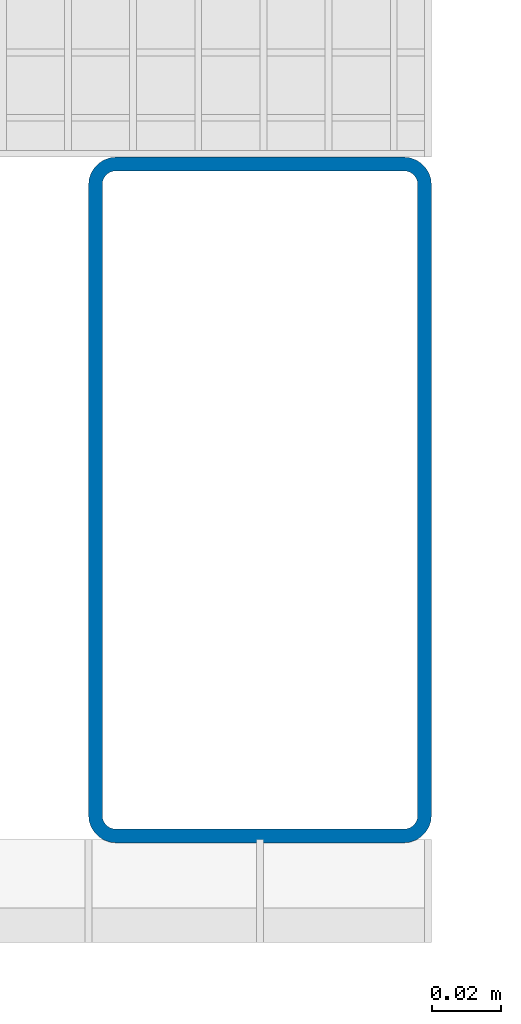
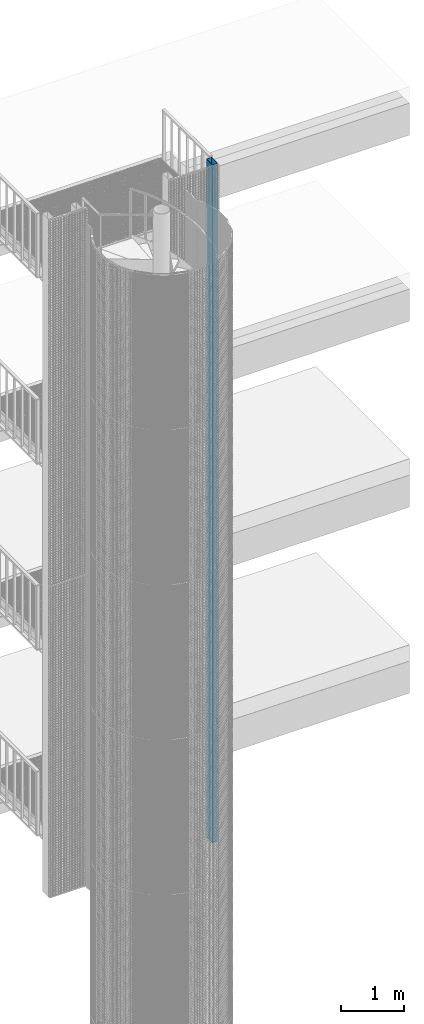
# One storey, part 34 of 1183: 1 column, 1 element without a shape of its own.
"""IFC2X3 building model written with IfcOpenShell, lengths in millimetres."""

import ifcopenshell
import ifcopenshell.guid

model = None  # the IFC model being written
_history = None  # IfcOwnerHistory: only IFC2X3 demands one
_inside = {}  # id of a spatial element -> (the spatial element, [elements in it])
_under = {}  # id of a project, library or spatial element -> (it, [spatial elements below it])
_declared = {}  # id of a project -> (the project, [libraries it declares])
_typed = {}  # id of a type object -> (the type object, [elements of that type])
_made_of = {}  # id of a material, layer set ... -> (it, [elements and type objects made of it])


def new_model(schema):
    """Start an empty IFC model of exactly this schema.

    Asked for "IFC4X3", IfcOpenShell would pick the latest addendum, in which some entities
    have other attributes; the version numbers below select the first issue.
    IFC2X3 requires an IfcOwnerHistory on every rooted entity: one is made here for all.
    """
    global model, _history
    if schema == "IFC4X3":
        model = ifcopenshell.file(schema_version=(4, 3, 0, 0))
    else:
        model = ifcopenshell.file(schema=schema)
    _inside.clear()
    _under.clear()
    _declared.clear()
    _typed.clear()
    _made_of.clear()
    _history = None
    if model.schema == "IFC2X3":
        org = make("IfcOrganization", Name="unknown")
        user = make(
            "IfcPersonAndOrganization",
            ThePerson=make("IfcPerson", FamilyName="unknown"),
            TheOrganization=org,
        )
        app = make(
            "IfcApplication",
            ApplicationDeveloper=org,
            Version="unknown",
            ApplicationFullName="unknown",
            ApplicationIdentifier="unknown",
        )
        _history = make(
            "IfcOwnerHistory",
            OwningUser=user,
            OwningApplication=app,
            ChangeAction="ADDED",
            CreationDate=0,
        )
    return model


def make(cls, **values):
    """One entity of the class cls with the attributes given. An attribute that is None is left unset."""
    return model.create_entity(
        cls, **{name: value for name, value in values.items() if value is not None}
    )


def rooted(cls, **values):
    """An entity with a GlobalId (a new one), such as an element, a storey or a relation."""
    return make(cls, GlobalId=ifcopenshell.guid.new(), OwnerHistory=_history, **values)


def si_unit(unit_type, name, prefix=None):
    """IfcSIUnit, for example si_unit("LENGTHUNIT", "METRE", prefix="MILLI")."""
    return make("IfcSIUnit", UnitType=unit_type, Prefix=prefix, Name=name)


def assignment(units):
    """IfcUnitAssignment: the units of a project."""
    return None if units is None else make("IfcUnitAssignment", Units=units)


def point(xyz):
    """IfcCartesianPoint."""
    return None if xyz is None else make("IfcCartesianPoint", Coordinates=xyz)


def direction(xyz):
    """IfcDirection."""
    return None if xyz is None else make("IfcDirection", DirectionRatios=xyz)


def frame(location, z_axis=None, x_axis=None):
    """IfcAxis2Placement3D, a coordinate frame: its origin and axes. An axis left out is left unset."""
    return make(
        "IfcAxis2Placement3D",
        Location=point(location),
        Axis=direction(z_axis),
        RefDirection=direction(x_axis),
    )


def frame_2d(location, x_axis=None):
    """IfcAxis2Placement2D, a coordinate frame in the plane: its origin and x axis."""
    return make(
        "IfcAxis2Placement2D", Location=point(location), RefDirection=direction(x_axis)
    )


def origin_with_axes():
    """The frame at (0, 0, 0) with the z axis (0, 0, 1) and the x axis (1, 0, 0) written out."""
    return frame((0.0, 0.0, 0.0), z_axis=(0.0, 0.0, 1.0), x_axis=(1.0, 0.0, 0.0))


def origin_2d_with_axis():
    """The frame at (0, 0) in the plane with the x axis (1, 0) written out."""
    return frame_2d((0.0, 0.0), x_axis=(1.0, 0.0))


def place(relative_to, where):
    """IfcLocalPlacement: puts the frame where relative to a parent placement (None: the world)."""
    return make(
        "IfcLocalPlacement", PlacementRelTo=relative_to, RelativePlacement=where
    )


def context(
    kind, dimensions, precision=None, world=None, true_north=None, identifier=None
):
    """IfcGeometricRepresentationContext, for example the 3D "Model" context."""
    return make(
        "IfcGeometricRepresentationContext",
        ContextIdentifier=identifier,
        ContextType=kind,
        CoordinateSpaceDimension=dimensions,
        Precision=precision,
        WorldCoordinateSystem=world,
        TrueNorth=true_north,
    )


def subcontext(parent, identifier, kind, view, scale=None):
    """IfcGeometricRepresentationSubContext, for example "Body" below "Model"."""
    return make(
        "IfcGeometricRepresentationSubContext",
        ContextIdentifier=identifier,
        ContextType=kind,
        ParentContext=parent,
        TargetScale=scale,
        TargetView=view,
    )


def project(units=None, contexts=None):
    """IfcProject with its units and contexts."""
    return rooted(
        "IfcProject",
        Name="project",
        RepresentationContexts=contexts,
        UnitsInContext=assignment(units),
    )


def spatial(cls, under=None, at=None, **own):
    """A site, building, storey or space (cls), placed at a placement, below another one or the project."""
    s = rooted(cls, ObjectPlacement=at, **own)
    if under is not None:
        _under.setdefault(under.id(), (under, []))[1].append(s)
    return s


def profile(cls, at=None, kind="AREA", **sizes):
    """A parametric profile (cls). Its sizes go by their IFC names, for example OverallWidth=200.0."""
    return make(cls, ProfileType=kind, Position=at, **sizes)


def hollow_rectangle(**sizes):
    """IfcRectangleHollowProfileDef."""
    return profile("IfcRectangleHollowProfileDef", **sizes)


def extrude(swept, where, along, depth):
    """IfcExtrudedAreaSolid: the profile swept, set in the frame where, extruded along a direction by depth."""
    return make(
        "IfcExtrudedAreaSolid",
        SweptArea=swept,
        Position=where,
        ExtrudedDirection=direction(along),
        Depth=depth,
    )


def shape(context_of_items, identifier, shape_type, items):
    """IfcShapeRepresentation: the items that make up one representation, for example the "Body"."""
    return make(
        "IfcShapeRepresentation",
        ContextOfItems=context_of_items,
        RepresentationIdentifier=identifier,
        RepresentationType=shape_type,
        Items=items,
    )


def material(Name=None, Category=None):
    """IfcMaterial."""
    return make("IfcMaterial", Name=Name, Category=Category)


def made_of(thing, what):
    """Note that an element or type object is made of a material, layer set ...; save() writes the relation."""
    if what is not None:
        _made_of.setdefault(what.id(), (what, []))[1].append(thing)
    return thing


def type_object(cls, material=None, **own):
    """A type object (cls), such as IfcWallType, which elements share."""
    return made_of(rooted(cls, **own), material)


def element(
    cls,
    number,
    at=None,
    inside=None,
    cuts=None,
    type_object=None,
    material=None,
    context=None,
    identifier="Body",
    shape_type=None,
    held_by="IfcProductDefinitionShape",
    body=None,
    shapes=None,
    **own,
):
    """One element of the class cls, such as IfcWall. Its Tag is "e" and its number.

    at: its placement. inside: the storey or other place that contains it. cuts: it is an
    opening in that element (IfcRelVoidsElement). A single representation is given by context,
    identifier, shape_type and body (its items); several are given by shapes. held_by: the class
    of the entity that holds the representations. save() writes the other relations.
    """
    e = rooted(cls, Tag="e%d" % number, ObjectPlacement=at, **own)
    if body is not None:
        shapes = [shape(context, identifier, shape_type, body)]
    if shapes is not None:
        e.Representation = make(held_by, Representations=shapes)
    if inside is not None:
        _inside.setdefault(inside.id(), (inside, []))[1].append(e)
    if cuts is not None:
        rooted(
            "IfcRelVoidsElement", RelatingBuildingElement=cuts, RelatedOpeningElement=e
        )
    if type_object is not None:
        _typed.setdefault(type_object.id(), (type_object, []))[1].append(e)
    return made_of(e, material)


def aggregate(whole, parts):
    """IfcRelAggregates: a whole, such as a stair, and the parts it consists of."""
    return rooted("IfcRelAggregates", RelatingObject=whole, RelatedObjects=parts)


def save(model, path):
    """Write the relations noted so far, then the file.

    IfcRelAggregates (storeys below a building ...), IfcRelContainedInSpatialStructure (elements
    in a storey), IfcRelDefinesByType, IfcRelAssociatesMaterial and IfcRelDeclares: one each for
    every whole, place, type object, material and project.
    """
    for whole, parts in _under.values():
        aggregate(whole, parts)
    for where, things in _inside.values():
        rooted(
            "IfcRelContainedInSpatialStructure",
            RelatedElements=things,
            RelatingStructure=where,
        )
    for kind, things in _typed.values():
        rooted("IfcRelDefinesByType", RelatedObjects=things, RelatingType=kind)
    for what, things in _made_of.values():
        rooted("IfcRelAssociatesMaterial", RelatedObjects=things, RelatingMaterial=what)
    for by, libraries in _declared.values():
        rooted("IfcRelDeclares", RelatingContext=by, RelatedDefinitions=libraries)
    model.write(path)


model = new_model("IFC2X3")

# Units and contexts
model_context = context("Model", 3, precision=1e-05, world=origin_with_axes())
body_context = subcontext(model_context, "Body", "Model", "MODEL_VIEW")
ifc_project = project(units=[si_unit("LENGTHUNIT", "METRE", prefix="MILLI"), si_unit("AREAUNIT", "SQUARE_METRE"), si_unit("VOLUMEUNIT", "CUBIC_METRE"), si_unit("MASSUNIT", "GRAM", prefix="KILO"), si_unit("TIMEUNIT", "SECOND"), si_unit("PLANEANGLEUNIT", "RADIAN"), si_unit("SOLIDANGLEUNIT", "STERADIAN"), si_unit("THERMODYNAMICTEMPERATUREUNIT", "DEGREE_CELSIUS"), si_unit("LUMINOUSINTENSITYUNIT", "LUMEN")], contexts=[model_context])

# Site, building, storey
site_placement = place(None, origin_with_axes())
site = spatial("IfcSite", under=ifc_project, at=site_placement, Name="Undefined", CompositionType="ELEMENT")
building_placement = place(site_placement, origin_with_axes())
building = spatial("IfcBuilding", under=site, at=building_placement, Name="Undefined", CompositionType="ELEMENT")
storey_placement = place(building_placement, origin_with_axes())
storey = spatial("IfcBuildingStorey", under=building, at=storey_placement, Name="Undefined", CompositionType="ELEMENT", Elevation=0.0)

# Assembly, column
assembly_placement = place(storey_placement, origin_with_axes())
assembly = element("IfcElementAssembly", 1, at=assembly_placement, inside=storey, AssemblyPlace="NOTDEFINED", PredefinedType="NOTDEFINED")
ifc_material = material(Name="STEEL/S235JR")
column_type = type_object("IfcColumnType", Name="TUBE-R-200*100*4", PredefinedType="NOTDEFINED")
column_placement = place(assembly_placement, frame((1500.06958983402, 1000.0146899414, 5170.0), z_axis=(0.0, 0.0, 1.0), x_axis=(0.0, 1.0, 0.0)))
column = element("IfcColumn", 2, at=column_placement, type_object=column_type, material=ifc_material, Name="EXISTANTS", context=body_context, shape_type="SweptSolid", body=[
    extrude(hollow_rectangle(XDim=100.0, YDim=200.0, WallThickness=4.0, InnerFilletRadius=4.0, OuterFilletRadius=8.0, at=origin_2d_with_axis()), frame((0.0, 0.0, 13120.0), z_axis=(0.0, 0.0, -1.0), x_axis=(0.0, 1.0, 0.0)), (0.0, 0.0, 1.0), 13120.0),
])
aggregate(assembly, [column])

save(model, "model.ifc")
